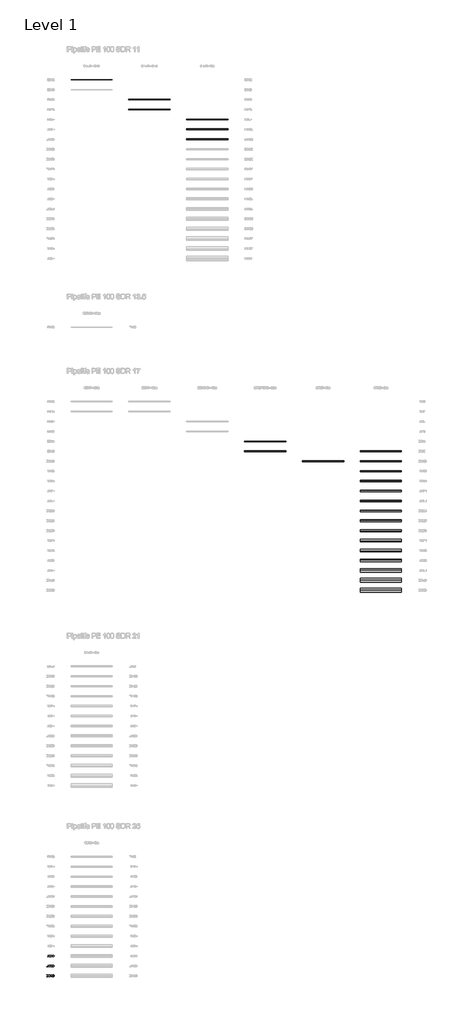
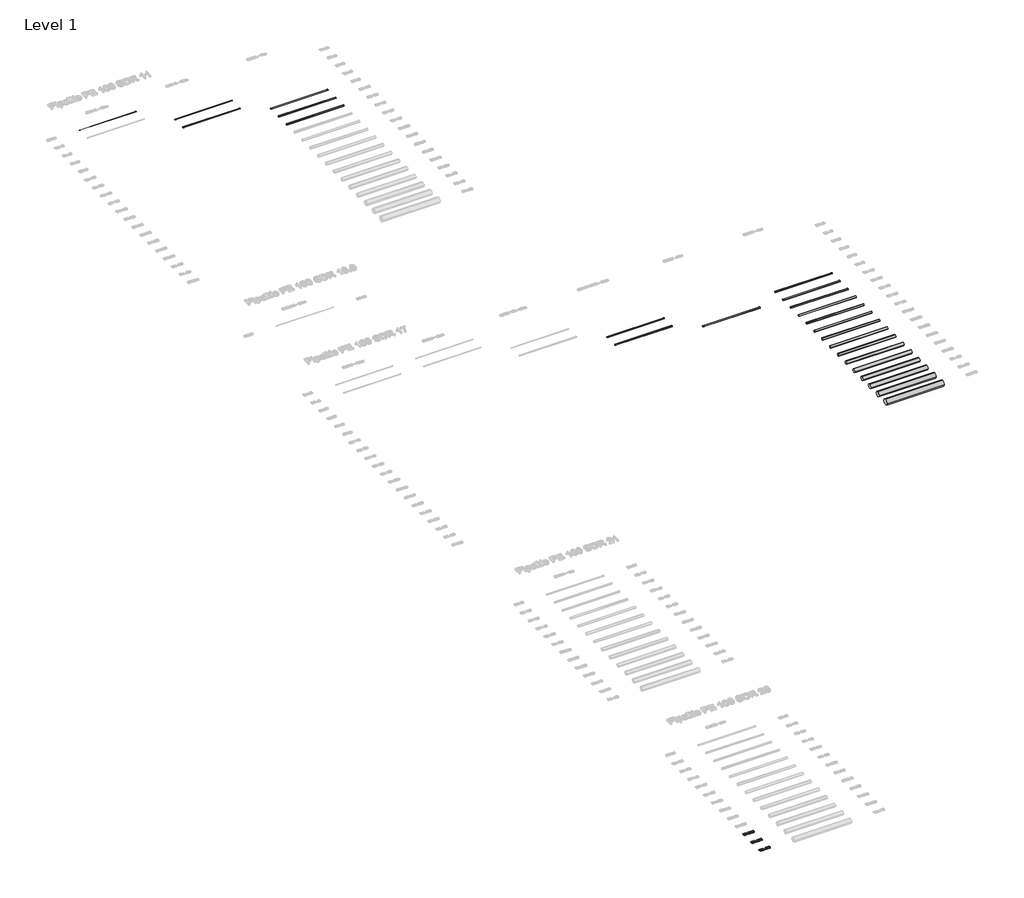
# One storey, part 2 of 26: 24 pipe segments, 3 proxies.
"""IFC4 building model written with IfcOpenShell, lengths in millimetres."""

from ifc_helpers import new_model, si_unit, point, frame, frame_2d, origin, origin_with_axes, place, context, project, spatial, polyline, circle_curve, trimmed, segment, composite_curve, outline, extrude, element, save

model = new_model("IFC4")

# Units and contexts
model_context = context("Model", 3, world=origin())
ifc_project = project(units=[si_unit("LENGTHUNIT", "METRE", prefix="MILLI")], contexts=[model_context])

# Site, building, storey
site = spatial("IfcSite", under=ifc_project)
building = spatial("IfcBuilding", under=site)
storey = spatial("IfcBuildingStorey", under=building, Name="Level 1", Elevation=0.0)

# Proxies
placement = place(None, origin())
element("IfcBuildingElementProxy", 1, Name="200mm Arial", ObjectType="200mm Arial", at=placement, inside=storey, context=model_context, shape_type="SweptSolid", body=[
    extrude(outline(polyline([(-19491.3116028, -105413.949573), (-19491.3116028, -105213.0369527), (-19422.0026349, -105213.0369527), (-19386.1464031, -105215.9309577), (-19370.1312736, -105221.5105013), (-19356.6177416, -105230.302881), (-19342.724065, -105245.606772), (-19332.8280393, -105264.6385338), (-19326.9051392, -105287.0302846), (-19324.9308391, -105312.4141423), (-19330.2773908, -105352.9547382), (-19344.0116519, -105382.2136195), (-19362.3567008, -105400.436041), (-19386.3671323, -105410.5160077), (-19418.6671715, -105413.949573), (-19491.3116028, -105413.949573)]), holes=[polyline([(-19466.1975253, -105388.8354954), (-19421.7573803, -105388.8354954), (-19389.4328156, -105385.2057264), (-19370.7934612, -105374.9540815), (-19362.0685265, -105364.0831685), (-19355.5140957, -105350.0116822), (-19351.4122114, -105332.6783089), (-19350.0449167, -105312.0217348), (-19352.7243239, -105284.6513144), (-19360.7625455, -105264.4423301), (-19372.6390025, -105250.5609162), (-19386.8331162, -105242.1732067), (-19422.4440933, -105238.1510302), (-19466.1975253, -105238.1510302), (-19466.1975253, -105388.8354954)])]), origin_with_axes(), (0.0, 0.0, 1.0), 50.0),
    extrude(outline(polyline([(-19290.3989825, -105413.949573), (-19290.3989825, -105213.0369527), (-19263.5190714, -105213.0369527), (-19158.5500754, -105372.2072292), (-19158.5500754, -105213.0369527), (-19133.4359979, -105213.0369527), (-19133.4359979, -105413.949573), (-19160.315909, -105413.949573), (-19265.284905, -105254.7302454), (-19265.284905, -105413.949573), (-19290.3989825, -105413.949573)])), origin_with_axes(), (0.0, 0.0, 1.0), 50.0),
    extrude(outline(polyline([(-19020.422649, -105360.5821582), (-18995.3085714, -105357.4428985), (-18989.6861083, -105373.2250361), (-18981.451683, -105383.8813512), (-18970.2006253, -105389.9514041), (-18955.528265, -105391.9747551), (-18938.3113877, -105389.1911147), (-18925.0185849, -105380.8401934), (-18916.5205108, -105368.3812565), (-18913.6878195, -105353.2735692), (-18916.4959853, -105338.9323028), (-18924.920483, -105327.3011004), (-18937.6737255, -105319.5939726), (-18953.4681259, -105317.02493), (-18971.0774107, -105319.7717822), (-18968.2815075, -105294.6577047), (-18964.2593311, -105294.9520102), (-18949.2129575, -105293.1493885), (-18935.7607392, -105287.7415231), (-18926.2693837, -105278.5935242), (-18923.1055985, -105265.5705016), (-18925.3987296, -105254.7241141), (-18932.2781229, -105245.925603), (-18942.7750225, -105240.0946734), (-18955.9206725, -105238.1510302), (-18969.0908479, -105240.1130675), (-18979.8575277, -105245.9991794), (-18987.7179396, -105255.809366), (-18992.1693118, -105269.5436271), (-19017.2833893, -105266.4043674), (-19009.8889612, -105243.8532011), (-18996.7310485, -105227.0164685), (-18978.7293562, -105216.5318316), (-18956.8035893, -105213.0369527), (-18941.0153203, -105214.7598667), (-18926.5146384, -105219.9286087), (-18914.2886934, -105228.0833263), (-18905.3246354, -105238.7641669), (-18899.8247996, -105251.0698196), (-18897.991521, -105264.0989736), (-18899.7328291, -105276.2390794), (-18904.9567534, -105287.2510138), (-18913.5897176, -105296.6320047), (-18925.5581452, -105303.87928), (-18909.8373212, -105310.2313758), (-18898.1877247, -105321.0471064), (-18890.9772376, -105335.7378608), (-18888.5737419, -105353.7150276), (-18893.3807333, -105378.191443), (-18907.8017075, -105398.645682), (-18929.5680589, -105412.478045), (-18956.4111818, -105417.0888326), (-18980.6913935, -105413.1524953), (-19000.4589194, -105401.3434833), (-19014.2054433, -105383.2804773), (-19020.422649, -105360.5821582)])), origin_with_axes(), (0.0, 0.0, 1.0), 50.0),
    extrude(outline(polyline([(-18772.4211333, -105413.949573), (-18797.5352108, -105413.949573), (-18797.5352108, -105257.3789958), (-18821.3249132, -105274.3260931), (-18847.7633659, -105287.0057592), (-18847.7633659, -105263.2651077), (-18810.9506409, -105239.769711), (-18797.4800285, -105226.1948653), (-18788.6079411, -105213.0369527), (-18772.4211333, -105213.0369527), (-18772.4211333, -105413.949573)])), origin_with_axes(), (0.0, 0.0, 1.0), 50.0),
    extrude(outline(polyline([(-18712.7751992, -105360.5821582), (-18687.6611216, -105357.4428985), (-18683.0503339, -105372.5199289), (-18675.005981, -105383.3172655), (-18663.5648509, -105389.8103827), (-18648.763732, -105391.9747551), (-18630.7620397, -105388.9642541), (-18617.2730332, -105379.9327511), (-18608.8485355, -105365.9225785), (-18606.0403696, -105347.9760685), (-18608.6707259, -105331.0780222), (-18616.5617947, -105318.1531014), (-18629.7748897, -105309.9493329), (-18648.3713245, -105307.2147434), (-18670.4197188, -105311.5802764), (-18684.5218619, -105322.9110419), (-18709.6359395, -105319.7717822), (-18687.6611216, -105216.1762123), (-18590.3440712, -105216.1762123), (-18590.3440712, -105241.2902899), (-18667.3540355, -105241.2902899), (-18678.0961897, -105296.619742), (-18660.1558111, -105285.7304349), (-18641.3570412, -105282.1006659), (-18617.8923012, -105286.601089), (-18598.4129496, -105300.1023582), (-18585.2979565, -105320.6792244), (-18580.9262921, -105346.4064386), (-18584.8626294, -105371.5205162), (-18596.6716415, -105393.0048247), (-18607.1072274, -105403.5415782), (-18619.2841214, -105411.0678307), (-18633.2023236, -105415.5835821), (-18648.8618339, -105417.0888326), (-18673.5283216, -105413.2199403), (-18693.1793515, -105401.6132634), (-18706.6499639, -105383.6177025), (-18712.7751992, -105360.5821582)])), origin_with_axes(), (0.0, 0.0, 1.0), 50.0),
])
element("IfcBuildingElementProxy", 2, Name="200mm Arial", ObjectType="200mm Arial", at=placement, inside=storey, context=model_context, shape_type="SweptSolid", body=[
    extrude(outline(polyline([(-19491.3116028, -107813.949573), (-19491.3116028, -107613.0369527), (-19422.0026349, -107613.0369527), (-19386.1464031, -107615.9309577), (-19370.1312736, -107621.5105013), (-19356.6177416, -107630.302881), (-19342.724065, -107645.606772), (-19332.8280393, -107664.6385338), (-19326.9051392, -107687.0302846), (-19324.9308391, -107712.4141423), (-19330.2773908, -107752.9547382), (-19344.0116519, -107782.2136195), (-19362.3567008, -107800.436041), (-19386.3671323, -107810.5160077), (-19418.6671715, -107813.949573), (-19491.3116028, -107813.949573)]), holes=[polyline([(-19466.1975253, -107788.8354954), (-19421.7573803, -107788.8354954), (-19389.4328156, -107785.2057264), (-19370.7934612, -107774.9540815), (-19362.0685265, -107764.0831685), (-19355.5140957, -107750.0116822), (-19351.4122114, -107732.6783089), (-19350.0449167, -107712.0217348), (-19352.7243239, -107684.6513144), (-19360.7625455, -107664.4423301), (-19372.6390025, -107650.5609162), (-19386.8331162, -107642.1732067), (-19422.4440933, -107638.1510302), (-19466.1975253, -107638.1510302), (-19466.1975253, -107788.8354954)])]), origin_with_axes(), (0.0, 0.0, 1.0), 50.0),
    extrude(outline(polyline([(-19290.3989825, -107813.949573), (-19290.3989825, -107613.0369527), (-19263.5190714, -107613.0369527), (-19158.5500754, -107772.2072292), (-19158.5500754, -107613.0369527), (-19133.4359979, -107613.0369527), (-19133.4359979, -107813.949573), (-19160.315909, -107813.949573), (-19265.284905, -107654.7302454), (-19265.284905, -107813.949573), (-19290.3989825, -107813.949573)])), origin_with_axes(), (0.0, 0.0, 1.0), 50.0),
    extrude(outline(polyline([(-18938.801897, -107813.949573), (-18938.801897, -107766.8606776), (-19029.8404281, -107766.8606776), (-19029.8404281, -107741.7466), (-18932.5233776, -107616.1762123), (-18913.6878195, -107616.1762123), (-18913.6878195, -107741.7466), (-18888.5737419, -107741.7466), (-18888.5737419, -107766.8606776), (-18913.6878195, -107766.8606776), (-18913.6878195, -107813.949573), (-18938.801897, -107813.949573)]), holes=[polyline([(-18938.801897, -107741.7466), (-18938.801897, -107664.1480245), (-18998.9383405, -107741.7466), (-18938.801897, -107741.7466)])]), origin_with_axes(), (0.0, 0.0, 1.0), 50.0),
    extrude(outline(polyline([(-18866.5989241, -107715.1119436), (-18864.7533827, -107682.9529258), (-18859.2167587, -107657.3054194), (-18850.0442343, -107637.7770168), (-18837.2909918, -107623.9753106), (-18820.8650607, -107615.7715422), (-18800.6744705, -107613.0369527), (-18785.1989013, -107614.6556334), (-18771.3420128, -107619.5116758), (-18759.7537299, -107627.4150073), (-18751.0839776, -107638.1755557), (-18739.3117537, -107667.9004209), (-18734.750017, -107715.1119436), (-18736.5771642, -107747.0870203), (-18742.058606, -107772.6732131), (-18751.1759481, -107792.2200098), (-18763.9107965, -107806.0768983), (-18780.3735158, -107814.335849), (-18800.6744705, -107817.0888326), (-18826.7695667, -107812.3063667), (-18846.5861435, -107797.9589689), (-18855.341735, -107782.8298218), (-18861.5957289, -107763.9789353), (-18866.5989241, -107715.1119436)]), holes=[polyline([(-18841.4848465, -107715.0628927), (-18838.5417906, -107754.5672876), (-18829.7126227, -107777.4311536), (-18816.5669727, -107788.3388547), (-18800.6744705, -107791.9747551), (-18784.7819683, -107788.326592), (-18771.6363184, -107777.3821026), (-18762.8071505, -107754.5059739), (-18759.8640945, -107715.0628927), (-18762.7090486, -107676.4475459), (-18771.2439109, -107653.4058703), (-18784.3650354, -107641.9647402), (-18800.9687761, -107638.1510302), (-18816.6896001, -107641.5110191), (-18829.3202152, -107651.5909857), (-18838.4436887, -107676.0674012), (-18841.4848465, -107715.0628927)])]), origin_with_axes(), (0.0, 0.0, 1.0), 50.0),
    extrude(outline(polyline([(-18712.7751992, -107715.1119436), (-18710.9296578, -107682.9529258), (-18705.3930338, -107657.3054194), (-18696.2205094, -107637.7770168), (-18683.4672669, -107623.9753106), (-18667.0413358, -107615.7715422), (-18646.8507456, -107613.0369527), (-18631.3751764, -107614.6556334), (-18617.5182879, -107619.5116758), (-18605.930005, -107627.4150073), (-18597.2602527, -107638.1755557), (-18585.4880288, -107667.9004209), (-18580.9262921, -107715.1119436), (-18582.7534393, -107747.0870203), (-18588.2348811, -107772.6732131), (-18597.3522232, -107792.2200098), (-18610.0870716, -107806.0768983), (-18626.5497909, -107814.335849), (-18646.8507456, -107817.0888326), (-18672.9458418, -107812.3063667), (-18692.7624186, -107797.9589689), (-18701.5180101, -107782.8298218), (-18707.772004, -107763.9789353), (-18712.7751992, -107715.1119436)]), holes=[polyline([(-18687.6611216, -107715.0628927), (-18684.7180657, -107754.5672876), (-18675.8888978, -107777.4311536), (-18662.7432478, -107788.3388547), (-18646.8507456, -107791.9747551), (-18630.9582434, -107788.326592), (-18617.8125935, -107777.3821026), (-18608.9834256, -107754.5059739), (-18606.0403696, -107715.0628927), (-18608.8853237, -107676.4475459), (-18617.420186, -107653.4058703), (-18630.5413105, -107641.9647402), (-18647.1450512, -107638.1510302), (-18662.8658751, -107641.5110191), (-18675.4964903, -107651.5909857), (-18684.6199638, -107676.0674012), (-18687.6611216, -107715.0628927)])]), origin_with_axes(), (0.0, 0.0, 1.0), 50.0),
])
element("IfcBuildingElementProxy", 3, Name="200mm Arial", ObjectType="200mm Arial", at=placement, inside=storey, context=model_context, shape_type="SweptSolid", body=[
    extrude(outline(polyline([(-19491.3116028, -106613.949573), (-19491.3116028, -106413.0369527), (-19422.0026349, -106413.0369527), (-19386.1464031, -106415.9309577), (-19370.1312736, -106421.5105013), (-19356.6177416, -106430.302881), (-19342.724065, -106445.606772), (-19332.8280393, -106464.6385338), (-19326.9051392, -106487.0302846), (-19324.9308391, -106512.4141423), (-19330.2773908, -106552.9547382), (-19344.0116519, -106582.2136195), (-19362.3567008, -106600.436041), (-19386.3671323, -106610.5160077), (-19418.6671715, -106613.949573), (-19491.3116028, -106613.949573)]), holes=[polyline([(-19466.1975253, -106588.8354954), (-19421.7573803, -106588.8354954), (-19389.4328156, -106585.2057264), (-19370.7934612, -106574.9540815), (-19362.0685265, -106564.0831685), (-19355.5140957, -106550.0116822), (-19351.4122114, -106532.6783089), (-19350.0449167, -106512.0217348), (-19352.7243239, -106484.6513144), (-19360.7625455, -106464.4423301), (-19372.6390025, -106450.5609162), (-19386.8331162, -106442.1732067), (-19422.4440933, -106438.1510302), (-19466.1975253, -106438.1510302), (-19466.1975253, -106588.8354954)])]), origin_with_axes(), (0.0, 0.0, 1.0), 50.0),
    extrude(outline(polyline([(-19290.3989825, -106613.949573), (-19290.3989825, -106413.0369527), (-19263.5190714, -106413.0369527), (-19158.5500754, -106572.2072292), (-19158.5500754, -106413.0369527), (-19133.4359979, -106413.0369527), (-19133.4359979, -106613.949573), (-19160.315909, -106613.949573), (-19265.284905, -106454.7302454), (-19265.284905, -106613.949573), (-19290.3989825, -106613.949573)])), origin_with_axes(), (0.0, 0.0, 1.0), 50.0),
    extrude(outline(polyline([(-19020.422649, -106560.5821582), (-18995.3085714, -106557.4428985), (-18989.6861083, -106573.2250361), (-18981.451683, -106583.8813512), (-18970.2006253, -106589.9514041), (-18955.528265, -106591.9747551), (-18938.3113877, -106589.1911147), (-18925.0185849, -106580.8401934), (-18916.5205108, -106568.3812565), (-18913.6878195, -106553.2735692), (-18916.4959853, -106538.9323028), (-18924.920483, -106527.3011004), (-18937.6737255, -106519.5939726), (-18953.4681259, -106517.02493), (-18971.0774107, -106519.7717822), (-18968.2815075, -106494.6577047), (-18964.2593311, -106494.9520102), (-18949.2129575, -106493.1493885), (-18935.7607392, -106487.7415231), (-18926.2693837, -106478.5935242), (-18923.1055985, -106465.5705016), (-18925.3987296, -106454.7241141), (-18932.2781229, -106445.925603), (-18942.7750225, -106440.0946734), (-18955.9206725, -106438.1510302), (-18969.0908479, -106440.1130675), (-18979.8575277, -106445.9991794), (-18987.7179396, -106455.809366), (-18992.1693118, -106469.5436271), (-19017.2833893, -106466.4043674), (-19009.8889612, -106443.8532011), (-18996.7310485, -106427.0164685), (-18978.7293562, -106416.5318316), (-18956.8035893, -106413.0369527), (-18941.0153203, -106414.7598667), (-18926.5146384, -106419.9286087), (-18914.2886934, -106428.0833263), (-18905.3246354, -106438.7641669), (-18899.8247996, -106451.0698196), (-18897.991521, -106464.0989736), (-18899.7328291, -106476.2390794), (-18904.9567534, -106487.2510138), (-18913.5897176, -106496.6320047), (-18925.5581452, -106503.87928), (-18909.8373212, -106510.2313758), (-18898.1877247, -106521.0471064), (-18890.9772376, -106535.7378608), (-18888.5737419, -106553.7150276), (-18893.3807333, -106578.191443), (-18907.8017075, -106598.645682), (-18929.5680589, -106612.478045), (-18956.4111818, -106617.0888326), (-18980.6913935, -106613.1524953), (-19000.4589194, -106601.3434833), (-19014.2054433, -106583.2804773), (-19020.422649, -106560.5821582)])), origin_with_axes(), (0.0, 0.0, 1.0), 50.0),
    extrude(outline(polyline([(-18866.5989241, -106560.5821582), (-18841.4848465, -106557.4428985), (-18836.8740589, -106572.5199289), (-18828.8297059, -106583.3172655), (-18817.3885758, -106589.8103827), (-18802.5874569, -106591.9747551), (-18784.5857646, -106588.9642541), (-18771.0967581, -106579.9327511), (-18762.6722604, -106565.9225785), (-18759.8640945, -106547.9760685), (-18762.4944508, -106531.0780222), (-18770.3855196, -106518.1531014), (-18783.5986146, -106509.9493329), (-18802.1950494, -106507.2147434), (-18824.2434437, -106511.5802764), (-18838.3455868, -106522.9110419), (-18863.4596644, -106519.7717822), (-18841.4848465, -106416.1762123), (-18744.1677961, -106416.1762123), (-18744.1677961, -106441.2902899), (-18821.1777604, -106441.2902899), (-18831.9199147, -106496.619742), (-18813.979536, -106485.7304349), (-18795.1807661, -106482.1006659), (-18771.7160261, -106486.601089), (-18752.2366745, -106500.1023582), (-18739.1216814, -106520.6792244), (-18734.750017, -106546.4064386), (-18738.6863543, -106571.5205162), (-18750.4953664, -106593.0048247), (-18760.9309523, -106603.5415782), (-18773.1078464, -106611.0678307), (-18787.0260485, -106615.5835821), (-18802.6855588, -106617.0888326), (-18827.3520466, -106613.2199403), (-18847.0030765, -106601.6132634), (-18860.4736888, -106583.6177025), (-18866.5989241, -106560.5821582)])), origin_with_axes(), (0.0, 0.0, 1.0), 50.0),
    extrude(outline(polyline([(-18712.7751992, -106560.5821582), (-18687.6611216, -106557.4428985), (-18683.0503339, -106572.5199289), (-18675.005981, -106583.3172655), (-18663.5648509, -106589.8103827), (-18648.763732, -106591.9747551), (-18630.7620397, -106588.9642541), (-18617.2730332, -106579.9327511), (-18608.8485355, -106565.9225785), (-18606.0403696, -106547.9760685), (-18608.6707259, -106531.0780222), (-18616.5617947, -106518.1531014), (-18629.7748897, -106509.9493329), (-18648.3713245, -106507.2147434), (-18670.4197188, -106511.5802764), (-18684.5218619, -106522.9110419), (-18709.6359395, -106519.7717822), (-18687.6611216, -106416.1762123), (-18590.3440712, -106416.1762123), (-18590.3440712, -106441.2902899), (-18667.3540355, -106441.2902899), (-18678.0961897, -106496.619742), (-18660.1558111, -106485.7304349), (-18641.3570412, -106482.1006659), (-18617.8923012, -106486.601089), (-18598.4129496, -106500.1023582), (-18585.2979565, -106520.6792244), (-18580.9262921, -106546.4064386), (-18584.8626294, -106571.5205162), (-18596.6716415, -106593.0048247), (-18607.1072274, -106603.5415782), (-18619.2841214, -106611.0678307), (-18633.2023236, -106615.5835821), (-18648.8618339, -106617.0888326), (-18673.5283216, -106613.2199403), (-18693.1793515, -106601.6132634), (-18706.6499639, -106583.6177025), (-18712.7751992, -106560.5821582)])), origin_with_axes(), (0.0, 0.0, 1.0), 50.0),
])

# Pipe segments
element("IfcPipeSegment", 4, ObjectType="Pipelife PE 100, SDR 11 niebieska - 150m", at=placement, inside=storey, context=model_context, shape_type="SweptSolid", body=[
    extrude(outline(composite_curve([segment(trimmed(circle_curve(frame_2d((586.050427, 0.0)), 16.0), [point((570.050427, 0.0))], [point((586.050427, 16.0))], False, "CARTESIAN"), True, "CONTINUOUS"), segment(trimmed(circle_curve(frame_2d((586.050427, 0.0)), 16.0), [point((586.050427, 16.0))], [point((602.050427, 0.0))], False, "CARTESIAN"), True, "CONTINUOUS"), segment(trimmed(circle_curve(frame_2d((586.050427, 0.0)), 16.0), [point((602.050427, 0.0))], [point((586.050427, -16.0))], False, "CARTESIAN"), True, "CONTINUOUS"), segment(trimmed(circle_curve(frame_2d((586.050427, 0.0)), 16.0), [point((586.050427, -16.0))], [point((570.050427, 0.0))], False, "CARTESIAN"), True, "CONTINUOUS")], self_intersect=False)), frame((-16532.6671252, 0.0, 0.0), z_axis=(1.0, 0.0, 0.0), x_axis=(0.0, 1.0, 0.0)), (0.0, 0.0, 1.0), 5000.0),
])
element("IfcPipeSegment", 5, ObjectType="Pipelife PE 100, SDR 11 niebieska - 100m", at=placement, inside=storey, context=model_context, shape_type="SweptSolid", body=[
    extrude(outline(composite_curve([segment(trimmed(circle_curve(frame_2d((-1813.949573, 0.0)), 25.0), [point((-1838.949573, 0.0))], [point((-1813.949573, 25.0))], False, "CARTESIAN"), True, "CONTINUOUS"), segment(trimmed(circle_curve(frame_2d((-1813.949573, 0.0)), 25.0), [point((-1813.949573, 25.0))], [point((-1788.949573, 0.0))], False, "CARTESIAN"), True, "CONTINUOUS"), segment(trimmed(circle_curve(frame_2d((-1813.949573, 0.0)), 25.0), [point((-1788.949573, 0.0))], [point((-1813.949573, -25.0))], False, "CARTESIAN"), True, "CONTINUOUS"), segment(trimmed(circle_curve(frame_2d((-1813.949573, 0.0)), 25.0), [point((-1813.949573, -25.0))], [point((-1838.949573, 0.0))], False, "CARTESIAN"), True, "CONTINUOUS")], self_intersect=False)), frame((-9532.6671252, 0.0, 0.0), z_axis=(1.0, 0.0, 0.0), x_axis=(0.0, 1.0, 0.0)), (0.0, 0.0, 1.0), 5000.0),
])
element("IfcPipeSegment", 6, ObjectType="Pipelife PE 100, SDR 11 niebieska - 100m", at=placement, inside=storey, context=model_context, shape_type="SweptSolid", body=[
    extrude(outline(composite_curve([segment(trimmed(circle_curve(frame_2d((-3013.949573, 0.0)), 31.5), [point((-3045.449573, 0.0))], [point((-3013.949573, 31.5))], False, "CARTESIAN"), True, "CONTINUOUS"), segment(trimmed(circle_curve(frame_2d((-3013.949573, 0.0)), 31.5), [point((-3013.949573, 31.5))], [point((-2982.449573, 0.0))], False, "CARTESIAN"), True, "CONTINUOUS"), segment(trimmed(circle_curve(frame_2d((-3013.949573, 0.0)), 31.5), [point((-2982.449573, 0.0))], [point((-3013.949573, -31.5))], False, "CARTESIAN"), True, "CONTINUOUS"), segment(trimmed(circle_curve(frame_2d((-3013.949573, 0.0)), 31.5), [point((-3013.949573, -31.5))], [point((-3045.449573, 0.0))], False, "CARTESIAN"), True, "CONTINUOUS")], self_intersect=False)), frame((-9532.6671252, 0.0, 0.0), z_axis=(1.0, 0.0, 0.0), x_axis=(0.0, 1.0, 0.0)), (0.0, 0.0, 1.0), 5000.0),
])
element("IfcPipeSegment", 7, ObjectType="Pipelife PE 100, SDR 11 czarna - 12m", at=placement, inside=storey, context=model_context, shape_type="SweptSolid", body=[
    extrude(outline(composite_curve([segment(trimmed(circle_curve(frame_2d((-4213.949573, 0.0)), 45.0), [point((-4258.949573, 0.0))], [point((-4213.949573, 45.0))], False, "CARTESIAN"), True, "CONTINUOUS"), segment(trimmed(circle_curve(frame_2d((-4213.949573, 0.0)), 45.0), [point((-4213.949573, 45.0))], [point((-4168.949573, 0.0))], False, "CARTESIAN"), True, "CONTINUOUS"), segment(trimmed(circle_curve(frame_2d((-4213.949573, 0.0)), 45.0), [point((-4168.949573, 0.0))], [point((-4213.949573, -45.0))], False, "CARTESIAN"), True, "CONTINUOUS"), segment(trimmed(circle_curve(frame_2d((-4213.949573, 0.0)), 45.0), [point((-4213.949573, -45.0))], [point((-4258.949573, 0.0))], False, "CARTESIAN"), True, "CONTINUOUS")], self_intersect=False)), frame((-2532.6671252, 0.0, 0.0), z_axis=(1.0, 0.0, 0.0), x_axis=(0.0, 1.0, 0.0)), (0.0, 0.0, 1.0), 5000.0),
])
element("IfcPipeSegment", 8, ObjectType="Pipelife PE 100, SDR 11 czarna - 12m", at=placement, inside=storey, context=model_context, shape_type="SweptSolid", body=[
    extrude(outline(composite_curve([segment(trimmed(circle_curve(frame_2d((-5413.949573, 0.0)), 55.0), [point((-5468.949573, 0.0))], [point((-5413.949573, 55.0))], False, "CARTESIAN"), True, "CONTINUOUS"), segment(trimmed(circle_curve(frame_2d((-5413.949573, 0.0)), 55.0), [point((-5413.949573, 55.0))], [point((-5358.949573, 0.0))], False, "CARTESIAN"), True, "CONTINUOUS"), segment(trimmed(circle_curve(frame_2d((-5413.949573, 0.0)), 55.0), [point((-5358.949573, 0.0))], [point((-5413.949573, -55.0))], False, "CARTESIAN"), True, "CONTINUOUS"), segment(trimmed(circle_curve(frame_2d((-5413.949573, 0.0)), 55.0), [point((-5413.949573, -55.0))], [point((-5468.949573, 0.0))], False, "CARTESIAN"), True, "CONTINUOUS")], self_intersect=False)), frame((-2532.6671252, 0.0, 0.0), z_axis=(1.0, 0.0, 0.0), x_axis=(0.0, 1.0, 0.0)), (0.0, 0.0, 1.0), 5000.0),
])
element("IfcPipeSegment", 9, ObjectType="Pipelife PE 100, SDR 11 czarna - 12m", at=placement, inside=storey, context=model_context, shape_type="SweptSolid", body=[
    extrude(outline(composite_curve([segment(trimmed(circle_curve(frame_2d((-6613.949573, 0.0)), 62.5), [point((-6676.449573, 0.0))], [point((-6613.949573, 62.5))], False, "CARTESIAN"), True, "CONTINUOUS"), segment(trimmed(circle_curve(frame_2d((-6613.949573, 0.0)), 62.5), [point((-6613.949573, 62.5))], [point((-6551.449573, 0.0))], False, "CARTESIAN"), True, "CONTINUOUS"), segment(trimmed(circle_curve(frame_2d((-6613.949573, 0.0)), 62.5), [point((-6551.449573, 0.0))], [point((-6613.949573, -62.5))], False, "CARTESIAN"), True, "CONTINUOUS"), segment(trimmed(circle_curve(frame_2d((-6613.949573, 0.0)), 62.5), [point((-6613.949573, -62.5))], [point((-6676.449573, 0.0))], False, "CARTESIAN"), True, "CONTINUOUS")], self_intersect=False)), frame((-2532.6671252, 0.0, 0.0), z_axis=(1.0, 0.0, 0.0), x_axis=(0.0, 1.0, 0.0)), (0.0, 0.0, 1.0), 5000.0),
])
element("IfcPipeSegment", 10, ObjectType="Pipelife PE 100, SDR 17 czarna - 100m", at=placement, inside=storey, context=model_context, shape_type="SweptSolid", body=[
    extrude(outline(composite_curve([segment(trimmed(circle_curve(frame_2d((-43113.949573, 0.0)), 37.5), [point((-43151.449573, 0.0))], [point((-43113.949573, 37.5))], False, "CARTESIAN"), True, "CONTINUOUS"), segment(trimmed(circle_curve(frame_2d((-43113.949573, 0.0)), 37.5), [point((-43113.949573, 37.5))], [point((-43076.449573, 0.0))], False, "CARTESIAN"), True, "CONTINUOUS"), segment(trimmed(circle_curve(frame_2d((-43113.949573, 0.0)), 37.5), [point((-43076.449573, 0.0))], [point((-43113.949573, -37.5))], False, "CARTESIAN"), True, "CONTINUOUS"), segment(trimmed(circle_curve(frame_2d((-43113.949573, 0.0)), 37.5), [point((-43113.949573, -37.5))], [point((-43151.449573, 0.0))], False, "CARTESIAN"), True, "CONTINUOUS")], self_intersect=False)), frame((4467.3328748, 0.0, 0.0), z_axis=(1.0, 0.0, 0.0), x_axis=(0.0, 1.0, 0.0)), (0.0, 0.0, 1.0), 5000.0),
])
element("IfcPipeSegment", 11, ObjectType="Pipelife PE 100, SDR 17 czarna - 100m", at=placement, inside=storey, context=model_context, shape_type="SweptSolid", body=[
    extrude(outline(composite_curve([segment(trimmed(circle_curve(frame_2d((-44313.949573, 0.0)), 45.0), [point((-44358.949573, 0.0))], [point((-44313.949573, 45.0))], False, "CARTESIAN"), True, "CONTINUOUS"), segment(trimmed(circle_curve(frame_2d((-44313.949573, 0.0)), 45.0), [point((-44313.949573, 45.0))], [point((-44268.949573, 0.0))], False, "CARTESIAN"), True, "CONTINUOUS"), segment(trimmed(circle_curve(frame_2d((-44313.949573, 0.0)), 45.0), [point((-44268.949573, 0.0))], [point((-44313.949573, -45.0))], False, "CARTESIAN"), True, "CONTINUOUS"), segment(trimmed(circle_curve(frame_2d((-44313.949573, 0.0)), 45.0), [point((-44313.949573, -45.0))], [point((-44358.949573, 0.0))], False, "CARTESIAN"), True, "CONTINUOUS")], self_intersect=False)), frame((4467.3328748, 0.0, 0.0), z_axis=(1.0, 0.0, 0.0), x_axis=(0.0, 1.0, 0.0)), (0.0, 0.0, 1.0), 5000.0),
])
element("IfcPipeSegment", 12, ObjectType="Pipelife PE 100, SDR 17 czarna - 50m", at=placement, inside=storey, context=model_context, shape_type="SweptSolid", body=[
    extrude(outline(composite_curve([segment(trimmed(circle_curve(frame_2d((-45513.949573, 0.0)), 55.0), [point((-45568.949573, 0.0))], [point((-45513.949573, 55.0))], False, "CARTESIAN"), True, "CONTINUOUS"), segment(trimmed(circle_curve(frame_2d((-45513.949573, 0.0)), 55.0), [point((-45513.949573, 55.0))], [point((-45458.949573, 0.0))], False, "CARTESIAN"), True, "CONTINUOUS"), segment(trimmed(circle_curve(frame_2d((-45513.949573, 0.0)), 55.0), [point((-45458.949573, 0.0))], [point((-45513.949573, -55.0))], False, "CARTESIAN"), True, "CONTINUOUS"), segment(trimmed(circle_curve(frame_2d((-45513.949573, 0.0)), 55.0), [point((-45513.949573, -55.0))], [point((-45568.949573, 0.0))], False, "CARTESIAN"), True, "CONTINUOUS")], self_intersect=False)), frame((11467.3328748, 0.0, 0.0), z_axis=(1.0, 0.0, 0.0), x_axis=(0.0, 1.0, 0.0)), (0.0, 0.0, 1.0), 5000.0),
])
element("IfcPipeSegment", 13, ObjectType="Pipelife PE 100, SDR 17 czarna - 12m", at=placement, inside=storey, context=model_context, shape_type="SweptSolid", body=[
    extrude(outline(composite_curve([segment(trimmed(circle_curve(frame_2d((-44313.949573, 0.0)), 45.0), [point((-44358.949573, 0.0))], [point((-44313.949573, 45.0))], False, "CARTESIAN"), True, "CONTINUOUS"), segment(trimmed(circle_curve(frame_2d((-44313.949573, 0.0)), 45.0), [point((-44313.949573, 45.0))], [point((-44268.949573, 0.0))], False, "CARTESIAN"), True, "CONTINUOUS"), segment(trimmed(circle_curve(frame_2d((-44313.949573, 0.0)), 45.0), [point((-44268.949573, 0.0))], [point((-44313.949573, -45.0))], False, "CARTESIAN"), True, "CONTINUOUS"), segment(trimmed(circle_curve(frame_2d((-44313.949573, 0.0)), 45.0), [point((-44313.949573, -45.0))], [point((-44358.949573, 0.0))], False, "CARTESIAN"), True, "CONTINUOUS")], self_intersect=False)), frame((18467.3328748, 0.0, 0.0), z_axis=(1.0, 0.0, 0.0), x_axis=(0.0, 1.0, 0.0)), (0.0, 0.0, 1.0), 5000.0),
])
element("IfcPipeSegment", 14, ObjectType="Pipelife PE 100, SDR 17 czarna - 12m", at=placement, inside=storey, context=model_context, shape_type="SweptSolid", body=[
    extrude(outline(composite_curve([segment(trimmed(circle_curve(frame_2d((-45513.949573, 0.0)), 55.0), [point((-45568.949573, 0.0))], [point((-45513.949573, 55.0))], False, "CARTESIAN"), True, "CONTINUOUS"), segment(trimmed(circle_curve(frame_2d((-45513.949573, 0.0)), 55.0), [point((-45513.949573, 55.0))], [point((-45458.949573, 0.0))], False, "CARTESIAN"), True, "CONTINUOUS"), segment(trimmed(circle_curve(frame_2d((-45513.949573, 0.0)), 55.0), [point((-45458.949573, 0.0))], [point((-45513.949573, -55.0))], False, "CARTESIAN"), True, "CONTINUOUS"), segment(trimmed(circle_curve(frame_2d((-45513.949573, 0.0)), 55.0), [point((-45513.949573, -55.0))], [point((-45568.949573, 0.0))], False, "CARTESIAN"), True, "CONTINUOUS")], self_intersect=False)), frame((18467.3328748, 0.0, 0.0), z_axis=(1.0, 0.0, 0.0), x_axis=(0.0, 1.0, 0.0)), (0.0, 0.0, 1.0), 5000.0),
])
element("IfcPipeSegment", 15, ObjectType="Pipelife PE 100, SDR 17 czarna - 12m", at=placement, inside=storey, context=model_context, shape_type="SweptSolid", body=[
    extrude(outline(composite_curve([segment(trimmed(circle_curve(frame_2d((-46713.949573, 0.0)), 62.5), [point((-46776.449573, 0.0))], [point((-46713.949573, 62.5))], False, "CARTESIAN"), True, "CONTINUOUS"), segment(trimmed(circle_curve(frame_2d((-46713.949573, 0.0)), 62.5), [point((-46713.949573, 62.5))], [point((-46651.449573, 0.0))], False, "CARTESIAN"), True, "CONTINUOUS"), segment(trimmed(circle_curve(frame_2d((-46713.949573, 0.0)), 62.5), [point((-46651.449573, 0.0))], [point((-46713.949573, -62.5))], False, "CARTESIAN"), True, "CONTINUOUS"), segment(trimmed(circle_curve(frame_2d((-46713.949573, 0.0)), 62.5), [point((-46713.949573, -62.5))], [point((-46776.449573, 0.0))], False, "CARTESIAN"), True, "CONTINUOUS")], self_intersect=False)), frame((18467.3328748, 0.0, 0.0), z_axis=(1.0, 0.0, 0.0), x_axis=(0.0, 1.0, 0.0)), (0.0, 0.0, 1.0), 5000.0),
])
element("IfcPipeSegment", 16, ObjectType="Pipelife PE 100, SDR 17 czarna - 12m", at=placement, inside=storey, context=model_context, shape_type="SweptSolid", body=[
    extrude(outline(composite_curve([segment(trimmed(circle_curve(frame_2d((-47913.949573, 0.0)), 70.0), [point((-47983.949573, 0.0))], [point((-47913.949573, 70.0))], False, "CARTESIAN"), True, "CONTINUOUS"), segment(trimmed(circle_curve(frame_2d((-47913.949573, 0.0)), 70.0), [point((-47913.949573, 70.0))], [point((-47843.949573, 0.0))], False, "CARTESIAN"), True, "CONTINUOUS"), segment(trimmed(circle_curve(frame_2d((-47913.949573, 0.0)), 70.0), [point((-47843.949573, 0.0))], [point((-47913.949573, -70.0))], False, "CARTESIAN"), True, "CONTINUOUS"), segment(trimmed(circle_curve(frame_2d((-47913.949573, 0.0)), 70.0), [point((-47913.949573, -70.0))], [point((-47983.949573, 0.0))], False, "CARTESIAN"), True, "CONTINUOUS")], self_intersect=False)), frame((18467.3328748, 0.0, 0.0), z_axis=(1.0, 0.0, 0.0), x_axis=(0.0, 1.0, 0.0)), (0.0, 0.0, 1.0), 5000.0),
])
element("IfcPipeSegment", 17, ObjectType="Pipelife PE 100, SDR 17 czarna - 12m", at=placement, inside=storey, context=model_context, shape_type="SweptSolid", body=[
    extrude(outline(composite_curve([segment(trimmed(circle_curve(frame_2d((-49113.949573, 0.0)), 80.0), [point((-49193.949573, 0.0))], [point((-49113.949573, 80.0))], False, "CARTESIAN"), True, "CONTINUOUS"), segment(trimmed(circle_curve(frame_2d((-49113.949573, 0.0)), 80.0), [point((-49113.949573, 80.0))], [point((-49033.949573, 0.0))], False, "CARTESIAN"), True, "CONTINUOUS"), segment(trimmed(circle_curve(frame_2d((-49113.949573, 0.0)), 80.0), [point((-49033.949573, 0.0))], [point((-49113.949573, -80.0))], False, "CARTESIAN"), True, "CONTINUOUS"), segment(trimmed(circle_curve(frame_2d((-49113.949573, 0.0)), 80.0), [point((-49113.949573, -80.0))], [point((-49193.949573, 0.0))], False, "CARTESIAN"), True, "CONTINUOUS")], self_intersect=False)), frame((18467.3328748, 0.0, 0.0), z_axis=(1.0, 0.0, 0.0), x_axis=(0.0, 1.0, 0.0)), (0.0, 0.0, 1.0), 5000.0),
])
element("IfcPipeSegment", 18, ObjectType="Pipelife PE 100, SDR 17 czarna - 12m", at=placement, inside=storey, context=model_context, shape_type="SweptSolid", body=[
    extrude(outline(composite_curve([segment(trimmed(circle_curve(frame_2d((-50313.949573, 0.0)), 90.0), [point((-50403.949573, 0.0))], [point((-50313.949573, 90.0))], False, "CARTESIAN"), True, "CONTINUOUS"), segment(trimmed(circle_curve(frame_2d((-50313.949573, 0.0)), 90.0), [point((-50313.949573, 90.0))], [point((-50223.949573, 0.0))], False, "CARTESIAN"), True, "CONTINUOUS"), segment(trimmed(circle_curve(frame_2d((-50313.949573, 0.0)), 90.0), [point((-50223.949573, 0.0))], [point((-50313.949573, -90.0))], False, "CARTESIAN"), True, "CONTINUOUS"), segment(trimmed(circle_curve(frame_2d((-50313.949573, 0.0)), 90.0), [point((-50313.949573, -90.0))], [point((-50403.949573, 0.0))], False, "CARTESIAN"), True, "CONTINUOUS")], self_intersect=False)), frame((18467.3328748, 0.0, 0.0), z_axis=(1.0, 0.0, 0.0), x_axis=(0.0, 1.0, 0.0)), (0.0, 0.0, 1.0), 5000.0),
])
element("IfcPipeSegment", 19, ObjectType="Pipelife PE 100, SDR 17 czarna - 12m", at=placement, inside=storey, context=model_context, shape_type="SweptSolid", body=[
    extrude(outline(composite_curve([segment(trimmed(circle_curve(frame_2d((-51513.949573, 0.0)), 100.0), [point((-51613.949573, 0.0))], [point((-51513.949573, 100.0))], False, "CARTESIAN"), True, "CONTINUOUS"), segment(trimmed(circle_curve(frame_2d((-51513.949573, 0.0)), 100.0), [point((-51513.949573, 100.0))], [point((-51413.949573, 0.0))], False, "CARTESIAN"), True, "CONTINUOUS"), segment(trimmed(circle_curve(frame_2d((-51513.949573, 0.0)), 100.0), [point((-51413.949573, 0.0))], [point((-51513.949573, -100.0))], False, "CARTESIAN"), True, "CONTINUOUS"), segment(trimmed(circle_curve(frame_2d((-51513.949573, 0.0)), 100.0), [point((-51513.949573, -100.0))], [point((-51613.949573, 0.0))], False, "CARTESIAN"), True, "CONTINUOUS")], self_intersect=False)), frame((18467.3328748, 0.0, 0.0), z_axis=(1.0, 0.0, 0.0), x_axis=(0.0, 1.0, 0.0)), (0.0, 0.0, 1.0), 5000.0),
])
element("IfcPipeSegment", 20, ObjectType="Pipelife PE 100, SDR 17 czarna - 12m", at=placement, inside=storey, context=model_context, shape_type="SweptSolid", body=[
    extrude(outline(composite_curve([segment(trimmed(circle_curve(frame_2d((-52713.949573, 0.0)), 112.5), [point((-52826.449573, 0.0))], [point((-52713.949573, 112.5))], False, "CARTESIAN"), True, "CONTINUOUS"), segment(trimmed(circle_curve(frame_2d((-52713.949573, 0.0)), 112.5), [point((-52713.949573, 112.5))], [point((-52601.449573, 0.0))], False, "CARTESIAN"), True, "CONTINUOUS"), segment(trimmed(circle_curve(frame_2d((-52713.949573, 0.0)), 112.5), [point((-52601.449573, 0.0))], [point((-52713.949573, -112.5))], False, "CARTESIAN"), True, "CONTINUOUS"), segment(trimmed(circle_curve(frame_2d((-52713.949573, 0.0)), 112.5), [point((-52713.949573, -112.5))], [point((-52826.449573, 0.0))], False, "CARTESIAN"), True, "CONTINUOUS")], self_intersect=False)), frame((18467.3328748, 0.0, 0.0), z_axis=(1.0, 0.0, 0.0), x_axis=(0.0, 1.0, 0.0)), (0.0, 0.0, 1.0), 5000.0),
])
element("IfcPipeSegment", 21, ObjectType="Pipelife PE 100, SDR 17 czarna - 12m", at=placement, inside=storey, context=model_context, shape_type="SweptSolid", body=[
    extrude(outline(composite_curve([segment(trimmed(circle_curve(frame_2d((-53913.949573, 0.0)), 125.0), [point((-54038.949573, 0.0))], [point((-53913.949573, 125.0))], False, "CARTESIAN"), True, "CONTINUOUS"), segment(trimmed(circle_curve(frame_2d((-53913.949573, 0.0)), 125.0), [point((-53913.949573, 125.0))], [point((-53788.949573, 0.0))], False, "CARTESIAN"), True, "CONTINUOUS"), segment(trimmed(circle_curve(frame_2d((-53913.949573, 0.0)), 125.0), [point((-53788.949573, 0.0))], [point((-53913.949573, -125.0))], False, "CARTESIAN"), True, "CONTINUOUS"), segment(trimmed(circle_curve(frame_2d((-53913.949573, 0.0)), 125.0), [point((-53913.949573, -125.0))], [point((-54038.949573, 0.0))], False, "CARTESIAN"), True, "CONTINUOUS")], self_intersect=False)), frame((18467.3328748, 0.0, 0.0), z_axis=(1.0, 0.0, 0.0), x_axis=(0.0, 1.0, 0.0)), (0.0, 0.0, 1.0), 5000.0),
])
element("IfcPipeSegment", 22, ObjectType="Pipelife PE 100, SDR 17 czarna - 12m", at=placement, inside=storey, context=model_context, shape_type="SweptSolid", body=[
    extrude(outline(composite_curve([segment(trimmed(circle_curve(frame_2d((-55113.949573, 0.0)), 140.0), [point((-55253.949573, 0.0))], [point((-55113.949573, 140.0))], False, "CARTESIAN"), True, "CONTINUOUS"), segment(trimmed(circle_curve(frame_2d((-55113.949573, 0.0)), 140.0), [point((-55113.949573, 140.0))], [point((-54973.949573, 0.0))], False, "CARTESIAN"), True, "CONTINUOUS"), segment(trimmed(circle_curve(frame_2d((-55113.949573, 0.0)), 140.0), [point((-54973.949573, 0.0))], [point((-55113.949573, -140.0))], False, "CARTESIAN"), True, "CONTINUOUS"), segment(trimmed(circle_curve(frame_2d((-55113.949573, 0.0)), 140.0), [point((-55113.949573, -140.0))], [point((-55253.949573, 0.0))], False, "CARTESIAN"), True, "CONTINUOUS")], self_intersect=False)), frame((18467.3328748, 0.0, 0.0), z_axis=(1.0, 0.0, 0.0), x_axis=(0.0, 1.0, 0.0)), (0.0, 0.0, 1.0), 5000.0),
])
element("IfcPipeSegment", 23, ObjectType="Pipelife PE 100, SDR 17 czarna - 12m", at=placement, inside=storey, context=model_context, shape_type="SweptSolid", body=[
    extrude(outline(composite_curve([segment(trimmed(circle_curve(frame_2d((-56313.949573, 0.0)), 157.5), [point((-56471.449573, 0.0))], [point((-56313.949573, 157.5))], False, "CARTESIAN"), True, "CONTINUOUS"), segment(trimmed(circle_curve(frame_2d((-56313.949573, 0.0)), 157.5), [point((-56313.949573, 157.5))], [point((-56156.449573, 0.0))], False, "CARTESIAN"), True, "CONTINUOUS"), segment(trimmed(circle_curve(frame_2d((-56313.949573, 0.0)), 157.5), [point((-56156.449573, 0.0))], [point((-56313.949573, -157.5))], False, "CARTESIAN"), True, "CONTINUOUS"), segment(trimmed(circle_curve(frame_2d((-56313.949573, 0.0)), 157.5), [point((-56313.949573, -157.5))], [point((-56471.449573, 0.0))], False, "CARTESIAN"), True, "CONTINUOUS")], self_intersect=False)), frame((18467.3328748, 0.0, 0.0), z_axis=(1.0, 0.0, 0.0), x_axis=(0.0, 1.0, 0.0)), (0.0, 0.0, 1.0), 5000.0),
])
element("IfcPipeSegment", 24, ObjectType="Pipelife PE 100, SDR 17 czarna - 12m", at=placement, inside=storey, context=model_context, shape_type="SweptSolid", body=[
    extrude(outline(composite_curve([segment(trimmed(circle_curve(frame_2d((-57513.949573, 0.0)), 177.5), [point((-57691.449573, 0.0))], [point((-57513.949573, 177.5))], False, "CARTESIAN"), True, "CONTINUOUS"), segment(trimmed(circle_curve(frame_2d((-57513.949573, 0.0)), 177.5), [point((-57513.949573, 177.5))], [point((-57336.449573, 0.0))], False, "CARTESIAN"), True, "CONTINUOUS"), segment(trimmed(circle_curve(frame_2d((-57513.949573, 0.0)), 177.5), [point((-57336.449573, 0.0))], [point((-57513.949573, -177.5))], False, "CARTESIAN"), True, "CONTINUOUS"), segment(trimmed(circle_curve(frame_2d((-57513.949573, 0.0)), 177.5), [point((-57513.949573, -177.5))], [point((-57691.449573, 0.0))], False, "CARTESIAN"), True, "CONTINUOUS")], self_intersect=False)), frame((18467.3328748, 0.0, 0.0), z_axis=(1.0, 0.0, 0.0), x_axis=(0.0, 1.0, 0.0)), (0.0, 0.0, 1.0), 5000.0),
])
element("IfcPipeSegment", 25, ObjectType="Pipelife PE 100, SDR 17 czarna - 12m", at=placement, inside=storey, context=model_context, shape_type="SweptSolid", body=[
    extrude(outline(composite_curve([segment(trimmed(circle_curve(frame_2d((-58713.949573, 0.0)), 200.0), [point((-58913.949573, 0.0))], [point((-58713.949573, 200.0))], False, "CARTESIAN"), True, "CONTINUOUS"), segment(trimmed(circle_curve(frame_2d((-58713.949573, 0.0)), 200.0), [point((-58713.949573, 200.0))], [point((-58513.949573, 0.0))], False, "CARTESIAN"), True, "CONTINUOUS"), segment(trimmed(circle_curve(frame_2d((-58713.949573, 0.0)), 200.0), [point((-58513.949573, 0.0))], [point((-58713.949573, -200.0))], False, "CARTESIAN"), True, "CONTINUOUS"), segment(trimmed(circle_curve(frame_2d((-58713.949573, 0.0)), 200.0), [point((-58713.949573, -200.0))], [point((-58913.949573, 0.0))], False, "CARTESIAN"), True, "CONTINUOUS")], self_intersect=False)), frame((18467.3328748, 0.0, 0.0), z_axis=(1.0, 0.0, 0.0), x_axis=(0.0, 1.0, 0.0)), (0.0, 0.0, 1.0), 5000.0),
])
element("IfcPipeSegment", 26, ObjectType="Pipelife PE 100, SDR 17 czarna - 12m", at=placement, inside=storey, context=model_context, shape_type="SweptSolid", body=[
    extrude(outline(composite_curve([segment(trimmed(circle_curve(frame_2d((-59913.949573, 0.0)), 225.0), [point((-60138.949573, 0.0))], [point((-59913.949573, 225.0))], False, "CARTESIAN"), True, "CONTINUOUS"), segment(trimmed(circle_curve(frame_2d((-59913.949573, 0.0)), 225.0), [point((-59913.949573, 225.0))], [point((-59688.949573, 0.0))], False, "CARTESIAN"), True, "CONTINUOUS"), segment(trimmed(circle_curve(frame_2d((-59913.949573, 0.0)), 225.0), [point((-59688.949573, 0.0))], [point((-59913.949573, -225.0))], False, "CARTESIAN"), True, "CONTINUOUS"), segment(trimmed(circle_curve(frame_2d((-59913.949573, 0.0)), 225.0), [point((-59913.949573, -225.0))], [point((-60138.949573, 0.0))], False, "CARTESIAN"), True, "CONTINUOUS")], self_intersect=False)), frame((18467.3328748, 0.0, 0.0), z_axis=(1.0, 0.0, 0.0), x_axis=(0.0, 1.0, 0.0)), (0.0, 0.0, 1.0), 5000.0),
])
element("IfcPipeSegment", 27, ObjectType="Pipelife PE 100, SDR 17 czarna - 12m", at=placement, inside=storey, context=model_context, shape_type="SweptSolid", body=[
    extrude(outline(composite_curve([segment(trimmed(circle_curve(frame_2d((-61113.949573, 0.0)), 250.0), [point((-61363.949573, 0.0))], [point((-61113.949573, 250.0))], False, "CARTESIAN"), True, "CONTINUOUS"), segment(trimmed(circle_curve(frame_2d((-61113.949573, 0.0)), 250.0), [point((-61113.949573, 250.0))], [point((-60863.949573, 0.0))], False, "CARTESIAN"), True, "CONTINUOUS"), segment(trimmed(circle_curve(frame_2d((-61113.949573, 0.0)), 250.0), [point((-60863.949573, 0.0))], [point((-61113.949573, -250.0))], False, "CARTESIAN"), True, "CONTINUOUS"), segment(trimmed(circle_curve(frame_2d((-61113.949573, 0.0)), 250.0), [point((-61113.949573, -250.0))], [point((-61363.949573, 0.0))], False, "CARTESIAN"), True, "CONTINUOUS")], self_intersect=False)), frame((18467.3328748, 0.0, 0.0), z_axis=(1.0, 0.0, 0.0), x_axis=(0.0, 1.0, 0.0)), (0.0, 0.0, 1.0), 5000.0),
])

save(model, "model.ifc")
